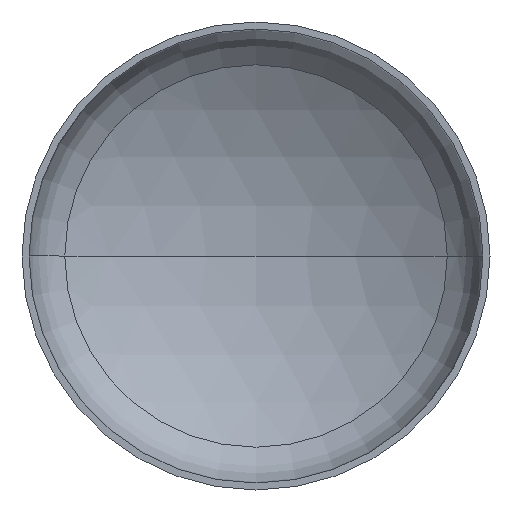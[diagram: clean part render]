
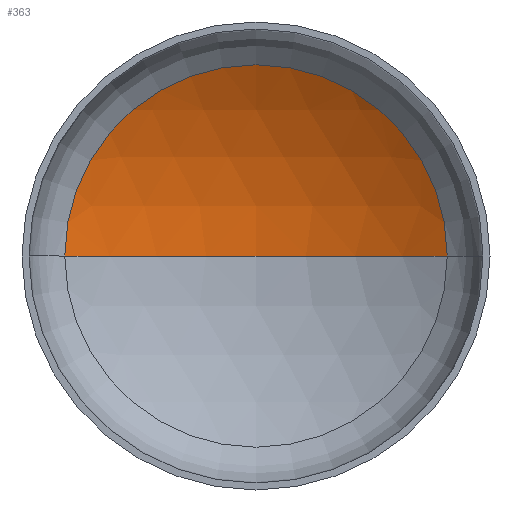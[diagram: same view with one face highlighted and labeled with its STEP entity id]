
A CAD part, front view. The second image highlights one B-rep face of the part: STEP entity #363.
In plain terms, the highlighted spherical face has radius 640 mm.
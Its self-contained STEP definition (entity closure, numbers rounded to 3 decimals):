
#1 = AXIS2_PLACEMENT_3D ( 'NONE', #124, #335, #152 ) ;
#8 = AXIS2_PLACEMENT_3D ( 'NONE', #180, #406, #298 ) ;
#9 = AXIS2_PLACEMENT_3D ( 'NONE', #122, #148, #151 ) ;
#18 = EDGE_LOOP ( 'NONE', ( #273, #134, #92 ) ) ;
#48 = VERTEX_POINT ( 'NONE', #287 ) ;
#84 = VERTEX_POINT ( 'NONE', #253 ) ;
#92 = ORIENTED_EDGE ( 'NONE', *, *, #346, .T. ) ;
#98 = CARTESIAN_POINT ( 'NONE',  ( 0., -402.782, 0. ) ) ;
#101 = VERTEX_POINT ( 'NONE', #329 ) ;
#122 = CARTESIAN_POINT ( 'NONE',  ( 0., -402.782, 0. ) ) ;
#124 = CARTESIAN_POINT ( 'NONE',  ( 0., -402.782, 0. ) ) ;
#134 = ORIENTED_EDGE ( 'NONE', *, *, #347, .T. ) ;
#145 = CIRCLE ( 'NONE', #8, 326.835 ) ;
#148 = DIRECTION ( 'NONE',  ( 0., 0., -1. ) ) ;
#151 = DIRECTION ( 'NONE',  ( -1., 0., 0. ) ) ;
#152 = DIRECTION ( 'NONE',  ( -1., 0., 0. ) ) ;
#180 = CARTESIAN_POINT ( 'NONE',  ( 0., 147.471, 0. ) ) ;
#200 = CIRCLE ( 'NONE', #254, 640. ) ;
#209 = FACE_OUTER_BOUND ( 'NONE', #18, .T. ) ;
#218 = DIRECTION ( 'NONE',  ( 0., 0., 1. ) ) ;
#253 = CARTESIAN_POINT ( 'NONE',  ( -326.835, 147.471, 0. ) ) ;
#254 = AXIS2_PLACEMENT_3D ( 'NONE', #98, #218, #387 ) ;
#269 = CIRCLE ( 'NONE', #9, 640. ) ;
#273 = ORIENTED_EDGE ( 'NONE', *, *, #380, .F. ) ;
#287 = CARTESIAN_POINT ( 'NONE',  ( 326.835, 147.471, 0. ) ) ;
#298 = DIRECTION ( 'NONE',  ( 1., 0., 0. ) ) ;
#329 = CARTESIAN_POINT ( 'NONE',  ( 0., 237.218, 0. ) ) ;
#335 = DIRECTION ( 'NONE',  ( 0., 0., -1. ) ) ;
#338 = SPHERICAL_SURFACE ( 'NONE', #1, 640. ) ;
#346 = EDGE_CURVE ( 'NONE', #48, #84, #145, .T. ) ;
#347 = EDGE_CURVE ( 'NONE', #101, #48, #269, .T. ) ;
#363 = ADVANCED_FACE ( 'NONE', ( #209 ), #338, .F. ) ;
#380 = EDGE_CURVE ( 'NONE', #101, #84, #200, .T. ) ;
#387 = DIRECTION ( 'NONE',  ( 1., 0., 0. ) ) ;
#406 = DIRECTION ( 'NONE',  ( 0., -1., 0. ) ) ;
